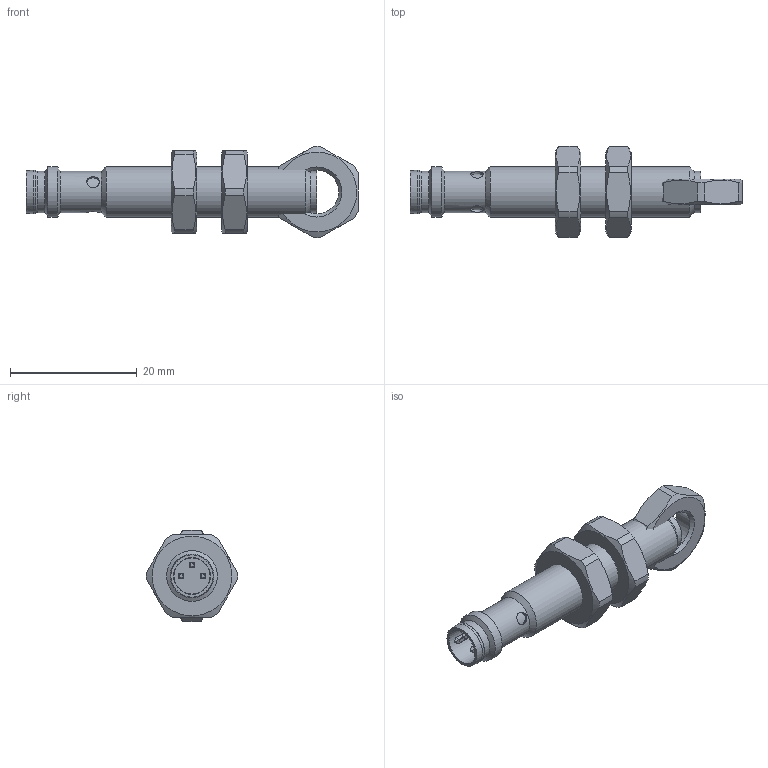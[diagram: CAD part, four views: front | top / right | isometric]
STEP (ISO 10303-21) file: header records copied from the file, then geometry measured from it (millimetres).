
FILE_DESCRIPTION( ( 'Unknown' ), '1' );
FILE_NAME( '//baumerholding.org/frauenfeld/bereich/BECH/Services/me_CAD/Solid Edge/Models/Dokumentationen/Induktiv/IxRx 08/Vereinfachte Modelle/Neutralformate/IFRD 08xxxA1_S35L.stp', 'Unknown', ( 'Unknown' ), ( 'Unknown' ), 'XStep 1.0', 'Unknown', ' ' );
FILE_SCHEMA( ( 'CONFIG_CONTROL_DESIGN' ) );
Length unit declared in the file: millimetre
Products named in the file (3): Assem1; IFRD 08xxxA1_S35L_oA; 101469
Bounding box: 52.45 x 14.39 x 14.4 mm (x, y, z)
Volume: 5219.3 mm3; surface area: 4030.3 mm2
Topology: 5 solids, 5 shells, 205 faces, 519 edges, 338 vertices
Faces by surface type: plane 108, cylinder 71, cone 26
Full cylindrical faces by diameter (mm): 2 x6, 5.8 x2, 6.5 x6, 6.9 x2, 6.917 x3, 8 x4
Entity records: 3038 total; most frequent: CARTESIAN_POINT 743, DIRECTION 454, ORIENTED_EDGE 416, EDGE_CURVE 208, AXIS2_PLACEMENT_3D 167, VERTEX_POINT 148, EDGE_LOOP 124, LINE 120
